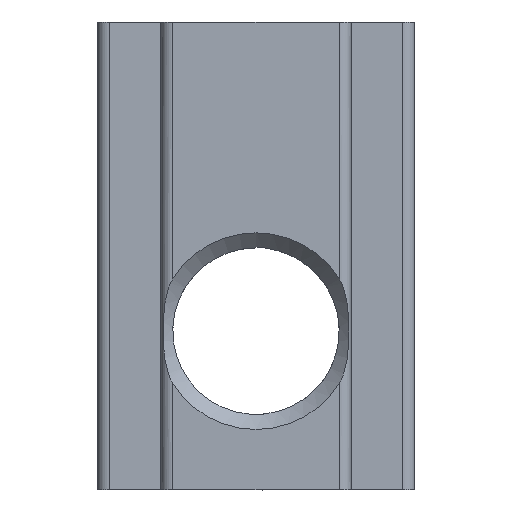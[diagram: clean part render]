
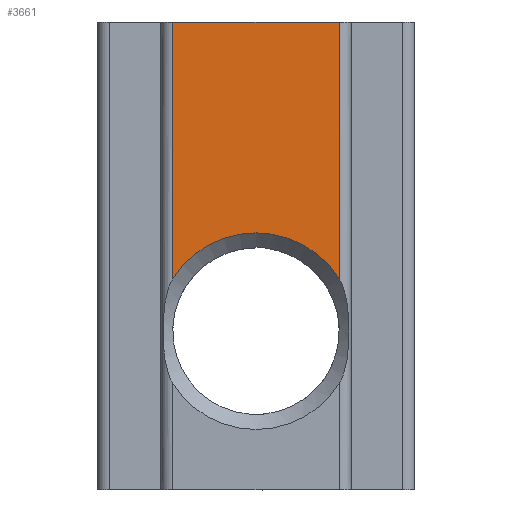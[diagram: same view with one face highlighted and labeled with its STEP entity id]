
A CAD part, top view. The second image highlights one B-rep face of the part: STEP entity #3661.
In plain terms, the highlighted planar face has unit normal (0, 0, 1).
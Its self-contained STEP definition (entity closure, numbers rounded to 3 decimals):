
#777 = PLANE('',#778);
#778 = AXIS2_PLACEMENT_3D('',#779,#780,#781);
#779 = CARTESIAN_POINT('',(3.7,5.9,1.7));
#780 = DIRECTION('',(0.,-1.,0.));
#781 = DIRECTION('',(0.,0.,-1.));
#1226 = CONICAL_SURFACE('',#1227,2.1,0.785);
#1227 = AXIS2_PLACEMENT_3D('',#1228,#1229,#1230);
#1228 = CARTESIAN_POINT('',(0.,-1.9,2.12));
#1229 = DIRECTION('',(-0.,-0.,1.));
#1230 = DIRECTION('',(1.,0.,0.));
#1251 = VERTEX_POINT('',#1252);
#1252 = CARTESIAN_POINT('',(-2.1,-0.581,2.5));
#1321 = CYLINDRICAL_SURFACE('',#1322,0.3);
#1322 = AXIS2_PLACEMENT_3D('',#1323,#1324,#1325);
#1323 = CARTESIAN_POINT('',(-2.1,-5.9,2.2));
#1324 = DIRECTION('',(-0.,-1.,-0.));
#1325 = DIRECTION('',(0.,0.,1.));
#1377 = EDGE_CURVE('',#1251,#1378,#1380,.T.);
#1378 = VERTEX_POINT('',#1379);
#1379 = CARTESIAN_POINT('',(2.1,-0.581,2.5));
#1380 = SURFACE_CURVE('',#1381,(#1386,#1393),.PCURVE_S1.);
#1381 = CIRCLE('',#1382,2.48);
#1382 = AXIS2_PLACEMENT_3D('',#1383,#1384,#1385);
#1383 = CARTESIAN_POINT('',(0.,-1.9,2.5));
#1384 = DIRECTION('',(0.,0.,-1.));
#1385 = DIRECTION('',(-1.,0.,0.));
#1386 = PCURVE('',#1226,#1387);
#1387 = DEFINITIONAL_REPRESENTATION('',(#1388),#1392);
#1388 = LINE('',#1389,#1390);
#1389 = CARTESIAN_POINT('',(3.142,0.38));
#1390 = VECTOR('',#1391,1.);
#1391 = DIRECTION('',(-1.,0.));
#1392 = ( GEOMETRIC_REPRESENTATION_CONTEXT(2) 
PARAMETRIC_REPRESENTATION_CONTEXT() REPRESENTATION_CONTEXT('2D SPACE',''
  ) );
#1393 = PCURVE('',#1394,#1399);
#1394 = PLANE('',#1395);
#1395 = AXIS2_PLACEMENT_3D('',#1396,#1397,#1398);
#1396 = CARTESIAN_POINT('',(-2.1,-5.9,2.5));
#1397 = DIRECTION('',(0.,0.,-1.));
#1398 = DIRECTION('',(-1.,0.,0.));
#1399 = DEFINITIONAL_REPRESENTATION('',(#1400),#1404);
#1400 = CIRCLE('',#1401,2.48);
#1401 = AXIS2_PLACEMENT_2D('',#1402,#1403);
#1402 = CARTESIAN_POINT('',(-2.1,4.));
#1403 = DIRECTION('',(1.,0.));
#1404 = ( GEOMETRIC_REPRESENTATION_CONTEXT(2) 
PARAMETRIC_REPRESENTATION_CONTEXT() REPRESENTATION_CONTEXT('2D SPACE',''
  ) );
#1649 = CYLINDRICAL_SURFACE('',#1650,0.3);
#1650 = AXIS2_PLACEMENT_3D('',#1651,#1652,#1653);
#1651 = CARTESIAN_POINT('',(2.1,-5.9,2.2));
#1652 = DIRECTION('',(-0.,-1.,-0.));
#1653 = DIRECTION('',(0.,0.,1.));
#3315 = EDGE_CURVE('',#1251,#3316,#3318,.T.);
#3316 = VERTEX_POINT('',#3317);
#3317 = CARTESIAN_POINT('',(-2.1,5.9,2.5));
#3318 = SURFACE_CURVE('',#3319,(#3323,#3330),.PCURVE_S1.);
#3319 = LINE('',#3320,#3321);
#3320 = CARTESIAN_POINT('',(-2.1,-5.9,2.5));
#3321 = VECTOR('',#3322,1.);
#3322 = DIRECTION('',(0.,1.,0.));
#3323 = PCURVE('',#1321,#3324);
#3324 = DEFINITIONAL_REPRESENTATION('',(#3325),#3329);
#3325 = LINE('',#3326,#3327);
#3326 = CARTESIAN_POINT('',(0.,0.));
#3327 = VECTOR('',#3328,1.);
#3328 = DIRECTION('',(0.,-1.));
#3329 = ( GEOMETRIC_REPRESENTATION_CONTEXT(2) 
PARAMETRIC_REPRESENTATION_CONTEXT() REPRESENTATION_CONTEXT('2D SPACE',''
  ) );
#3330 = PCURVE('',#1394,#3331);
#3331 = DEFINITIONAL_REPRESENTATION('',(#3332),#3336);
#3332 = LINE('',#3333,#3334);
#3333 = CARTESIAN_POINT('',(0.,0.));
#3334 = VECTOR('',#3335,1.);
#3335 = DIRECTION('',(0.,1.));
#3336 = ( GEOMETRIC_REPRESENTATION_CONTEXT(2) 
PARAMETRIC_REPRESENTATION_CONTEXT() REPRESENTATION_CONTEXT('2D SPACE',''
  ) );
#3563 = EDGE_CURVE('',#1378,#3564,#3566,.T.);
#3564 = VERTEX_POINT('',#3565);
#3565 = CARTESIAN_POINT('',(2.1,5.9,2.5));
#3566 = SURFACE_CURVE('',#3567,(#3571,#3578),.PCURVE_S1.);
#3567 = LINE('',#3568,#3569);
#3568 = CARTESIAN_POINT('',(2.1,-5.9,2.5));
#3569 = VECTOR('',#3570,1.);
#3570 = DIRECTION('',(0.,1.,0.));
#3571 = PCURVE('',#1649,#3572);
#3572 = DEFINITIONAL_REPRESENTATION('',(#3573),#3577);
#3573 = LINE('',#3574,#3575);
#3574 = CARTESIAN_POINT('',(6.283,0.));
#3575 = VECTOR('',#3576,1.);
#3576 = DIRECTION('',(0.,-1.));
#3577 = ( GEOMETRIC_REPRESENTATION_CONTEXT(2) 
PARAMETRIC_REPRESENTATION_CONTEXT() REPRESENTATION_CONTEXT('2D SPACE',''
  ) );
#3578 = PCURVE('',#1394,#3579);
#3579 = DEFINITIONAL_REPRESENTATION('',(#3580),#3584);
#3580 = LINE('',#3581,#3582);
#3581 = CARTESIAN_POINT('',(-4.2,0.));
#3582 = VECTOR('',#3583,1.);
#3583 = DIRECTION('',(0.,1.));
#3584 = ( GEOMETRIC_REPRESENTATION_CONTEXT(2) 
PARAMETRIC_REPRESENTATION_CONTEXT() REPRESENTATION_CONTEXT('2D SPACE',''
  ) );
#3661 = ADVANCED_FACE('',(#3662),#1394,.F.);
#3662 = FACE_BOUND('',#3663,.T.);
#3663 = EDGE_LOOP('',(#3664,#3665,#3666,#3667));
#3664 = ORIENTED_EDGE('',*,*,#3315,.F.);
#3665 = ORIENTED_EDGE('',*,*,#1377,.T.);
#3666 = ORIENTED_EDGE('',*,*,#3563,.T.);
#3667 = ORIENTED_EDGE('',*,*,#3668,.T.);
#3668 = EDGE_CURVE('',#3564,#3316,#3669,.T.);
#3669 = SURFACE_CURVE('',#3670,(#3674,#3681),.PCURVE_S1.);
#3670 = LINE('',#3671,#3672);
#3671 = CARTESIAN_POINT('',(-2.1,5.9,2.5));
#3672 = VECTOR('',#3673,1.);
#3673 = DIRECTION('',(-1.,0.,0.));
#3674 = PCURVE('',#1394,#3675);
#3675 = DEFINITIONAL_REPRESENTATION('',(#3676),#3680);
#3676 = LINE('',#3677,#3678);
#3677 = CARTESIAN_POINT('',(0.,11.8));
#3678 = VECTOR('',#3679,1.);
#3679 = DIRECTION('',(1.,0.));
#3680 = ( GEOMETRIC_REPRESENTATION_CONTEXT(2) 
PARAMETRIC_REPRESENTATION_CONTEXT() REPRESENTATION_CONTEXT('2D SPACE',''
  ) );
#3681 = PCURVE('',#777,#3682);
#3682 = DEFINITIONAL_REPRESENTATION('',(#3683),#3687);
#3683 = LINE('',#3684,#3685);
#3684 = CARTESIAN_POINT('',(-0.8,-5.8));
#3685 = VECTOR('',#3686,1.);
#3686 = DIRECTION('',(0.,-1.));
#3687 = ( GEOMETRIC_REPRESENTATION_CONTEXT(2) 
PARAMETRIC_REPRESENTATION_CONTEXT() REPRESENTATION_CONTEXT('2D SPACE',''
  ) );
